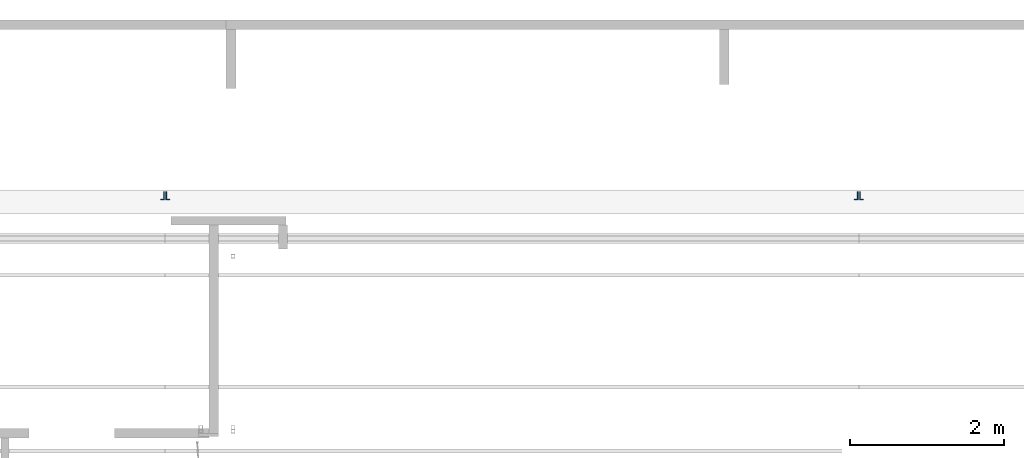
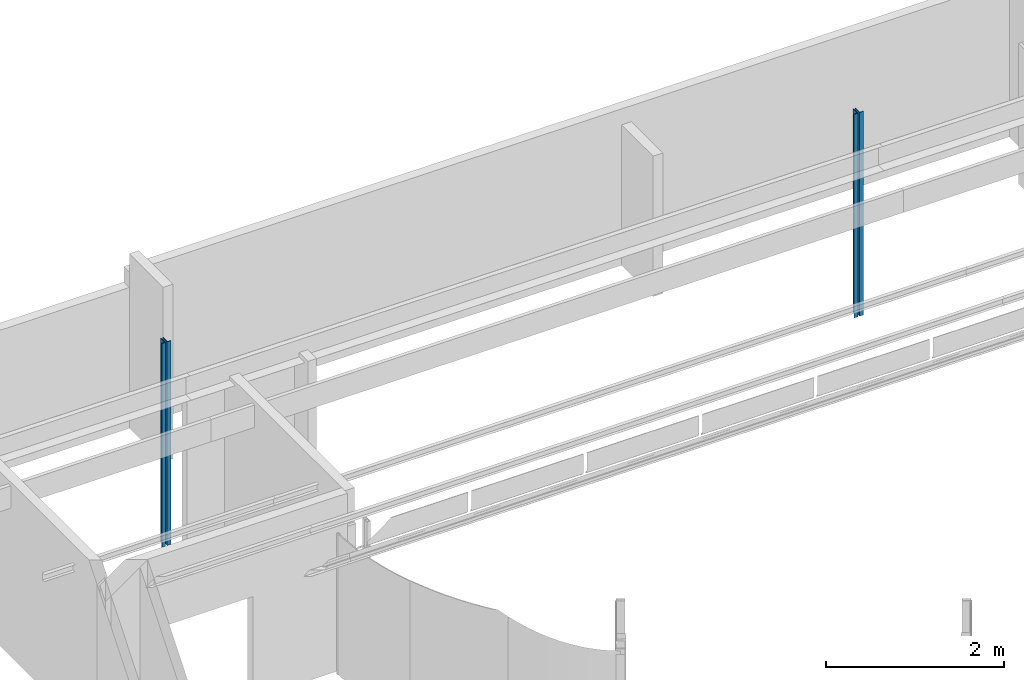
# One storey, part 5 of 11: 4 columns.
"""IFC2X3 building model written with IfcOpenShell, lengths in millimetres."""

from ifc_helpers import new_model, entity, si_unit, converted_unit, derived_unit, direction, frame, origin, origin_with_axes, place, context, subcontext, project, spatial, polyline, outline, extrude, source, transform, mapped, material, type_object, element, save


model = new_model("IFC2X3")

# Units and contexts
model_context = context("Model", 3, precision=0.01, world=frame((0.0, 4.29681676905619e-09, 0.0)), true_north=direction((4.01073788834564e-13, 1.0)))
plan_context = context("Plan", 3, precision=0.01, world=frame((0.0, 4.29681676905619e-09, 0.0)), true_north=direction((4.01073788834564e-13, 1.0)))
body_context = subcontext(model_context, "Body", "Model", "MODEL_VIEW")
ifc_project = project(units=[converted_unit("PLANEANGLEUNIT", "DEGREE", entity("IfcPositiveLengthMeasure", 0.0174532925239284), si_unit("PLANEANGLEUNIT", "RADIAN"), dimensions=[0, 0, 0, 0, 0, 0, 0]), si_unit("AREAUNIT", "SQUARE_METRE"), si_unit("LENGTHUNIT", "METRE", prefix="MILLI"), si_unit("MASSUNIT", "GRAM", prefix="KILO"), si_unit("POWERUNIT", "WATT"), si_unit("PRESSUREUNIT", "PASCAL"), si_unit("FORCEUNIT", "NEWTON", prefix="KILO"), si_unit("ELECTRICVOLTAGEUNIT", "VOLT"), si_unit("ELECTRICCURRENTUNIT", "AMPERE"), si_unit("THERMODYNAMICTEMPERATUREUNIT", "DEGREE_CELSIUS"), si_unit("TIMEUNIT", "SECOND"), si_unit("VOLUMEUNIT", "CUBIC_METRE"), derived_unit("LINEARVELOCITYUNIT", [(si_unit("LENGTHUNIT", "METRE"), 1), (si_unit("TIMEUNIT", "SECOND"), -1)]), derived_unit("VOLUMETRICFLOWRATEUNIT", [(si_unit("VOLUMEUNIT", "CUBIC_METRE"), 1), (si_unit("TIMEUNIT", "SECOND"), -1)]), derived_unit("THERMALTRANSMITTANCEUNIT", [(si_unit("POWERUNIT", "WATT"), 1), (si_unit("THERMODYNAMICTEMPERATUREUNIT", "KELVIN"), -1), (si_unit("AREAUNIT", "SQUARE_METRE"), -1)]), derived_unit("SOUNDPRESSUREUNIT", [(si_unit("PRESSUREUNIT", "PASCAL"), 1)])], contexts=[model_context, plan_context])

# Site, building, storey
site_placement = place(None, origin_with_axes())
site = spatial("IfcSite", under=ifc_project, at=site_placement, Name="ENGM", CompositionType="ELEMENT")
building_placement = place(site_placement, origin_with_axes())
building = spatial("IfcBuilding", under=site, at=building_placement, Name="TH", CompositionType="ELEMENT")
storey_placement = place(building_placement, frame((0.0, 0.0, 210900.0), z_axis=(0.0, 0.0, 1.0), x_axis=(1.0, 0.0, 0.0)))
storey = spatial("IfcBuildingStorey", under=building, at=storey_placement, Name="Nivå F", CompositionType="ELEMENT", Elevation=210900.0)

# Columns
ifc_material = material(Name="_NSW Stål")
column_type_1 = type_object("IfcColumnType", Name="B222 - Vinkelprofil:B222 - 100x50x8", PredefinedType="COLUMN", material=ifc_material)
shared_shape_1 = source(origin(), body_context, "Body", "SweptSolid", [
    extrude(outline(polyline([(-36.0, -19.3333333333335), (64.0, -19.3333333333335), (64.0, -11.333333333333), (-28.0, -11.333333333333), (-28.0, 30.6666666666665), (-36.0, 30.6666666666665), (-36.0, -19.3333333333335)])), frame((-30.6666666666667, 64.0, 210900.0), z_axis=(0.0, 0.0, 1.0), x_axis=(0.0, -1.0, 0.0)), (0.0, 0.0, 1.0), 2799.99999999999),
])
for number, where, z_axis, x_axis, name in (
    (1, (897939.999999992, 485126.762499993, -210900.0), (0.0, 0.0, 1.0), (-1.0, 0.0, 0.0), "B222 - Vinkelprofil:B222 - 100x50x8"),
    (2, (906939.999999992, 485126.762499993, -210900.0), (0.0, 0.0, 1.0), (-1.0, 0.0, 0.0), "B222 - Vinkelprofil:B222 - 100x50x8"),
):
    element("IfcColumn", number, at=place(storey_placement, frame(where, z_axis=z_axis, x_axis=x_axis)), inside=storey, type_object=column_type_1, material=ifc_material, Name=name, ObjectType="B222 - Vinkelprofil:B222 - 100x50x8", context=body_context, shape_type="MappedRepresentation", body=[
        mapped(shared_shape_1, transform((0.0, 0.0, 0.0), scale=1.0)),
    ])
column_type_2 = type_object("IfcColumnType", Name="B222 - Vinkelprofil:B222 - 100x50x8", PredefinedType="COLUMN", material=ifc_material)
shared_shape_2 = source(origin(), body_context, "Body", "SweptSolid", [
    extrude(outline(polyline([(-36.0, -30.6666666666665), (-28.0, -30.6666666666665), (-28.0, 11.333333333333), (64.0, 11.333333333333), (64.0, 19.3333333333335), (-36.0, 19.3333333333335), (-36.0, -30.6666666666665)])), frame((-30.6666666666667, -64.0, 210900.0), z_axis=(0.0, 0.0, 1.0), x_axis=(0.0, 1.0, 0.0)), (0.0, 0.0, 1.0), 2799.99999999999),
])
for number, where, z_axis, x_axis, name in (
    (3, (898060.000824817, 485126.762499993, -210900.0), (0.0, 0.0, 1.0), (1.0, 0.0, 0.0), "B222 - Vinkelprofil:B222 - 100x50x8"),
    (4, (907060.000824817, 485126.762499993, -210900.0), (0.0, 0.0, 1.0), (1.0, 0.0, 0.0), "B222 - Vinkelprofil:B222 - 100x50x8"),
):
    element("IfcColumn", number, at=place(storey_placement, frame(where, z_axis=z_axis, x_axis=x_axis)), inside=storey, type_object=column_type_2, material=ifc_material, Name=name, ObjectType="B222 - Vinkelprofil:B222 - 100x50x8", context=body_context, shape_type="MappedRepresentation", body=[
        mapped(shared_shape_2, transform((0.0, 0.0, 0.0), scale=1.0)),
    ])

save(model, "model.ifc")
